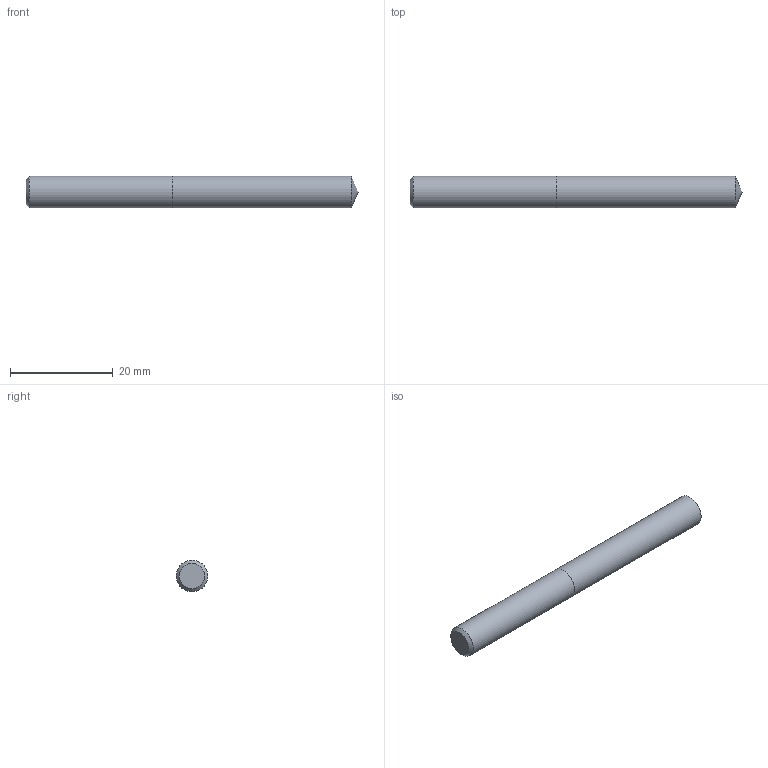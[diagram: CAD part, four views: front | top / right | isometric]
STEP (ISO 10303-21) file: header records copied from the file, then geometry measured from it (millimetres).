
FILE_DESCRIPTION (( 'STEP AP214' ), '1' );
FILE_NAME ('03-2319.STEP', '2022-06-03T06:09:27', ( 'USER' ), ( '' ), 'SwSTEP 2.0', 'SolidWorks 2018', '' );
FILE_SCHEMA (( 'AUTOMOTIVE_DESIGN' ));
Length unit declared in the file: inch
Products named in the file (1): 03-2319
Bounding box: 64.77 x 6.15 x 6.15 mm (x, y, z)
Volume: 1893.5 mm3; surface area: 1339.9 mm2
Topology: 2 solids, 2 shells, 7 faces, 11 edges, 7 vertices
Faces by surface type: plane 3, cylinder 2, cone 2
Full cylindrical faces by diameter (mm): 6.147 x2
Entity records: 214 total; most frequent: DIRECTION 26, CARTESIAN_POINT 18, AXIS2_PLACEMENT_3D 13, EDGE_LOOP 10, ORIENTED_EDGE 10, FACE_OUTER_BOUND 9, LENGTH_MEASURE_WITH_UNIT 7, UNCERTAINTY_MEASURE_WITH_UNIT 7
